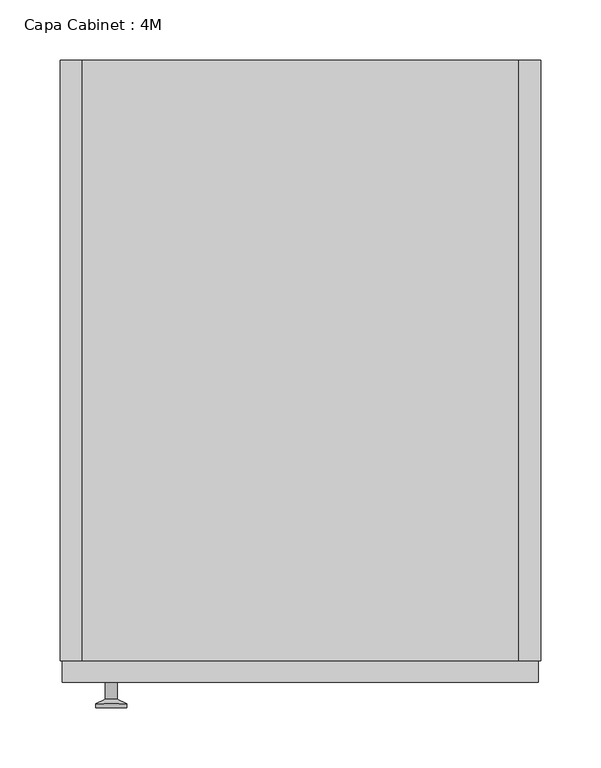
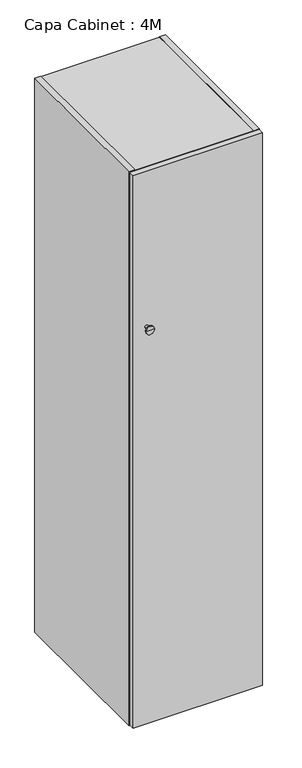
"""IFC4 building model written with IfcOpenShell, lengths in millimetres: furniture geometry, Capa Cabinet : 4M."""

from ifc_helpers import new_model, si_unit, frame, origin, place, context, project, spatial, polyline, circle_curve, outline, extrude, faceted_brep, source, transform, mapped, element, save
from ifc_brep_helpers import plane_surface, cylinder_surface, revolved_surface, advanced_brep


def capa_cabinet_4m_59aa443a(model_context):
    return source(origin(), model_context, "Body", "SolidModel", [
        extrude(outline(polyline([(182.0, 0.0), (-182.0, 0.0), (-182.0, 490.0), (182.0, 490.0), (182.0, 0.0)])), frame((0.0, 0.0, 1337.0), z_axis=(0.0, 0.0, 1.0), x_axis=(1.0, 0.0, 0.0)), (0.0, 0.0, 1.0), 14.0),
        extrude(outline(polyline([(182.0, 0.0), (-182.0, 0.0), (-182.0, 490.0), (182.0, 490.0), (182.0, 0.0)])), frame((0.0, 0.0, 889.0), z_axis=(0.0, 0.0, 1.0), x_axis=(1.0, 0.0, 0.0)), (0.0, 0.0, 1.0), 14.0),
        extrude(outline(polyline([(182.0, 0.0), (-182.0, 0.0), (-182.0, 490.0), (182.0, 490.0), (182.0, 0.0)])), frame((0.0, 0.0, 441.0), z_axis=(0.0, 0.0, 1.0), x_axis=(1.0, 0.0, 0.0)), (0.0, 0.0, 1.0), 14.0),
        faceted_brep([(-182.0, 500.0, 1792.0), (-182.0, 500.0, 1791.0), (182.0, 500.0, 1791.0), (182.0, 500.0, 1792.0), (200.0, 500.0, 1792.0), (200.0, 500.0, 0.0), (182.0, 500.0, 0.0), (182.0, 500.0, 1.0), (-182.0, 500.0, 1.0), (-182.0, 500.0, 0.0), (-200.0, 500.0, 0.0), (-200.0, 500.0, 1792.0), (182.0, 490.0, 19.0), (182.0, 490.0, 1773.0), (-182.0, 490.0, 1773.0), (-182.0, 490.0, 19.0), (-182.0, 0.0, 1792.0), (-200.0, 0.0, 1792.0), (-200.0, 0.0, 0.0), (-182.0, 0.0, 0.0), (-182.0, 0.0, 1.0), (182.0, 0.0, 1.0), (182.0, 0.0, 0.0), (200.0, 0.0, 0.0), (200.0, 0.0, 1792.0), (182.0, 0.0, 1792.0), (182.0, 0.0, 1791.0), (-182.0, 0.0, 1791.0), (182.0, 0.0, 1773.0), (182.0, 0.0, 19.0), (-182.0, 0.0, 19.0), (-182.0, 0.0, 1773.0)], [[[0, 1, 2, 3, 4, 5, 6, 7, 8, 9, 10, 11]], [[12, 13, 14, 15]], [[16, 17, 18, 19, 20, 21, 22, 23, 24, 25, 26, 27], [28, 29, 30, 31]], [[17, 16, 0, 11]], [[18, 17, 11, 10]], [[23, 22, 6, 5]], [[24, 23, 5, 4]], [[19, 18, 10, 9]], [[20, 19, 9, 8]], [[21, 20, 8, 7]], [[22, 21, 7, 6]], [[25, 24, 4, 3]], [[26, 25, 3, 2]], [[27, 26, 2, 1]], [[16, 27, 1, 0]], [[29, 28, 13, 12]], [[30, 29, 12, 15]], [[31, 30, 15, 14]], [[28, 31, 14, 13]]]),
        extrude(outline(polyline([(198.0, -18.0), (-198.0, -18.0), (-198.0, 0.0), (198.0, 0.0), (198.0, -18.0)])), frame((0.0, 0.0, 2.0), z_axis=(0.0, 0.0, 1.0), x_axis=(1.0, 0.0, 0.0)), (0.0, 0.0, 1.0), 1788.0),
        advanced_brep(
        [(-157.2922597, -18.0, 1288.0), (-152.2922597, -18.0, 1288.0), (-162.2922597, -18.0, 1288.0), (-170.2922597, -38.997134, 1288.0), (-144.2922597, -38.997134, 1288.0), (-157.2922597, -38.997134, 1288.0), (-170.2922597, -35.5419417, 1288.0), (-144.2922597, -35.5419417, 1288.0), (-162.2922597, -31.8114804, 1288.0), (-152.2922597, -31.8114804, 1288.0)],
        [
            (0, 1),
            (1, 2, circle_curve(frame((-157.2922597, -18.0, 1288.0), z_axis=(0.0, 1.0, 0.0), x_axis=(1.0, 0.0, 0.0)), 5.0)),
            (2, 0),
            (2, 1, circle_curve(frame((-157.2922597, -18.0, 1288.0), z_axis=(0.0, 1.0, 0.0), x_axis=(1.0, 0.0, 0.0)), 5.0)),
            (3, 4, circle_curve(frame((-157.2922597, -38.997134, 1288.0), z_axis=(0.0, -1.0, 0.0), x_axis=(1.0, 0.0, 0.0)), 13.0)),
            (4, 5),
            (5, 3),
            (4, 3, circle_curve(frame((-157.2922597, -38.997134, 1288.0), z_axis=(0.0, -1.0, 0.0), x_axis=(1.0, 0.0, 0.0)), 13.0)),
            (6, 7, circle_curve(frame((-157.2922597, -35.5419417, 1288.0), z_axis=(0.0, -1.0, 0.0), x_axis=(1.0, 0.0, 0.0)), 13.0)),
            (7, 4),
            (3, 6),
            (7, 6, circle_curve(frame((-157.2922597, -35.5419417, 1288.0), z_axis=(0.0, -1.0, 0.0), x_axis=(1.0, 0.0, 0.0)), 13.0)),
            (8, 9, circle_curve(frame((-157.2922597, -31.8114804, 1288.0), z_axis=(0.0, -1.0, 0.0), x_axis=(1.0, 0.0, 0.0)), 5.0)),
            (9, 7),
            (6, 8),
            (9, 8, circle_curve(frame((-157.2922597, -31.8114804, 1288.0), z_axis=(0.0, -1.0, 0.0), x_axis=(1.0, 0.0, 0.0)), 5.0)),
            (1, 9),
            (8, 2),
        ],
        [
            plane_surface(frame((-157.2922597, -18.0, 1288.0), z_axis=(0.0, 1.0, 0.0), x_axis=(1.0, 0.0, 0.0))),
            plane_surface(frame((-157.2922597, -38.997134, 1288.0), z_axis=(0.0, -1.0, 0.0), x_axis=(1.0, 0.0, 0.0))),
            cylinder_surface(frame((-157.2922597, -38.997134, 1288.0), z_axis=(0.0, 1.0, 0.0), x_axis=(1.0, 0.0, 0.0)), 13.0),
            revolved_surface(polyline([(-144.2922597, -35.5419417, 1288.0), (-152.2922597, -31.8114804, 1288.0)]), (-157.2922597, -38.997134, 1288.0), (0.0, 1.0, 0.0)),
            cylinder_surface(frame((-157.2922597, -38.997134, 1288.0), z_axis=(0.0, 1.0, 0.0), x_axis=(1.0, 0.0, 0.0)), 5.0),
        ],
        [
            (0, [[1, 2, 3]]),
            (0, [[-3, 4, -1]]),
            (1, [[5, 6, 7]]),
            (1, [[8, -7, -6]]),
            (2, [[9, 10, -5, 11]]),
            (2, [[12, -11, -8, -10]]),
            (3, [[13, 14, -9, 15]]),
            (3, [[16, -15, -12, -14]]),
            (4, [[-2, 17, -13, 18]]),
            (4, [[-4, -18, -16, -17]]),
        ],
    ),
    ])


if __name__ == "__main__":
    model = new_model("IFC4")
    model_context = context("Model", 3, world=origin())
    ifc_project = project(units=[si_unit("LENGTHUNIT", "METRE", prefix="MILLI")], contexts=[model_context])
    site = spatial("IfcSite", under=ifc_project)
    building = spatial("IfcBuilding", under=site)
    placement = place(None, origin())
    capa_cabinet_4m_shape = capa_cabinet_4m_59aa443a(model_context)
    element("IfcFurniture", 1, ObjectType="Capa Cabinet : 4M", at=placement, inside=building, context=model_context, shape_type="MappedRepresentation", body=[
        mapped(capa_cabinet_4m_shape, transform((0.0, 0.0, 0.0), x_axis=(1.0, 0.0, 0.0), y_axis=(0.0, 1.0, 0.0), z_axis=(0.0, 0.0, 1.0))),
    ])
    save(model, "model.ifc")
